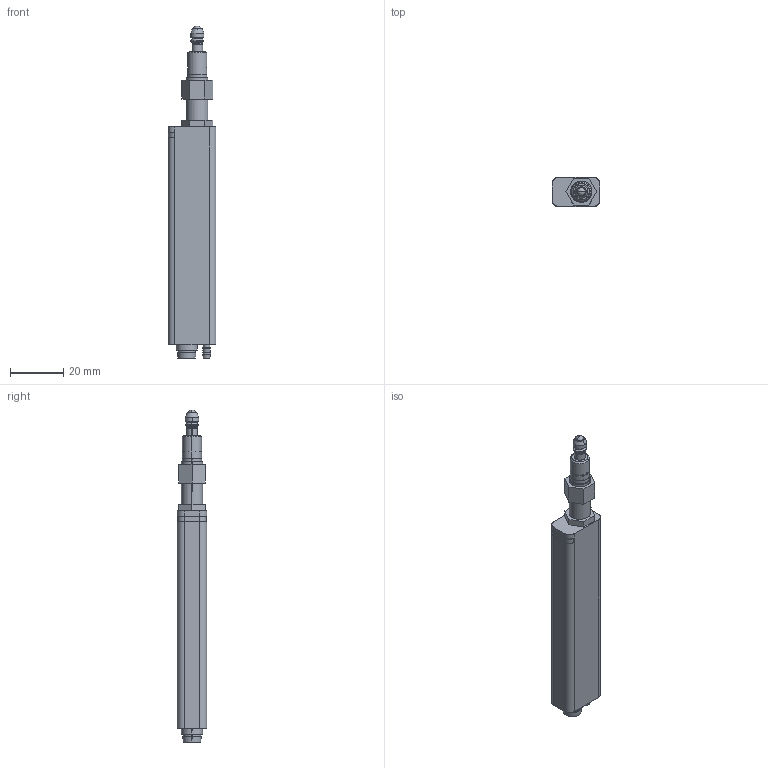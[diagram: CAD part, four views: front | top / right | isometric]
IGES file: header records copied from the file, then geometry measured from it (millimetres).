
Start section: SolidWorks IGES file using analytic representation for surfaces
Global section: file name: C:\catalog\hg-s1010-ac.IGS; native system: SolidWorks 2016; preprocessor: SolidWorks 2016; author: 4056191; date: 181211.104304; units: millimetre
Bounding box: 18 x 11 x 125 mm (x, y, z)
Surface area: 7038.3 mm2 (no closed solid volume)
Topology: 0 solids, 0 shells, 167 faces, 2580 edges, 2576 vertices
Faces by surface type: revolution 88, bspline 79
